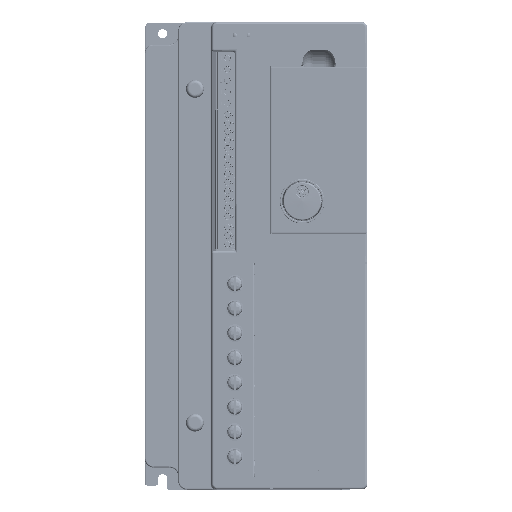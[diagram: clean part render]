
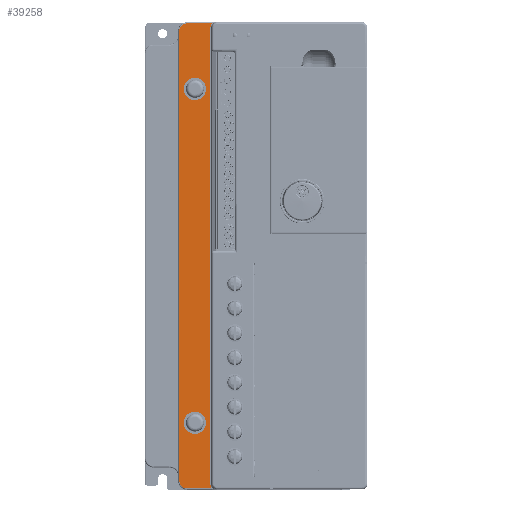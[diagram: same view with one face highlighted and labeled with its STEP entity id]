
A CAD part, top view. The second image highlights one B-rep face of the part: STEP entity #39258.
In plain terms, the highlighted planar face has unit normal (0, 0, 1).
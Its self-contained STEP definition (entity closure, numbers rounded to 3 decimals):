
#11539 = EDGE_CURVE ( 'NONE', #212891, #336443, #232441, .T. ) ;
#13058 = AXIS2_PLACEMENT_3D ( 'NONE', #509772, #161597, #568154 ) ;
#17272 = DIRECTION ( 'NONE',  ( -1., 0., 0. ) ) ;
#17624 = CIRCLE ( 'NONE', #168522, 1.65 ) ;
#18426 = DIRECTION ( 'NONE',  ( 0., 0., 1. ) ) ;
#26653 = CARTESIAN_POINT ( 'NONE',  ( -20., -104.5, 120. ) ) ;
#39258 = ADVANCED_FACE ( 'NONE', ( #138014, #601670, #583396 ), #522754, .F. ) ;
#64939 = ORIENTED_EDGE ( 'NONE', *, *, #299375, .T. ) ;
#67541 = CIRCLE ( 'NONE', #198521, 1.65 ) ;
#90742 = VECTOR ( 'NONE', #605852, 1000. ) ;
#91452 = DIRECTION ( 'NONE',  ( 0., 0., -1. ) ) ;
#91506 = VERTEX_POINT ( 'NONE', #325820 ) ;
#111638 = ORIENTED_EDGE ( 'NONE', *, *, #510538, .T. ) ;
#115043 = DIRECTION ( 'NONE',  ( 0., 0., 1. ) ) ;
#118712 = DIRECTION ( 'NONE',  ( 0., 0., -1. ) ) ;
#118752 = VECTOR ( 'NONE', #17272, 1000. ) ;
#130287 = CIRCLE ( 'NONE', #593472, 3.5 ) ;
#138014 = FACE_OUTER_BOUND ( 'NONE', #360193, .T. ) ;
#143133 = VERTEX_POINT ( 'NONE', #305971 ) ;
#149497 = CARTESIAN_POINT ( 'NONE',  ( -25.85, 75., 120. ) ) ;
#151301 = VERTEX_POINT ( 'NONE', #390619 ) ;
#154398 = ORIENTED_EDGE ( 'NONE', *, *, #586389, .T. ) ;
#160033 = EDGE_CURVE ( 'NONE', #392096, #143133, #67541, .T. ) ;
#161597 = DIRECTION ( 'NONE',  ( 0., 0., 1. ) ) ;
#161936 = EDGE_CURVE ( 'NONE', #294218, #621394, #130287, .T. ) ;
#164695 = ORIENTED_EDGE ( 'NONE', *, *, #11539, .T. ) ;
#168522 = AXIS2_PLACEMENT_3D ( 'NONE', #463163, #115043, #521570 ) ;
#180984 = DIRECTION ( 'NONE',  ( 0., 0., 1. ) ) ;
#196783 = AXIS2_PLACEMENT_3D ( 'NONE', #261757, #668230, #320127 ) ;
#198521 = AXIS2_PLACEMENT_3D ( 'NONE', #529068, #180984, #587482 ) ;
#212891 = VERTEX_POINT ( 'NONE', #289335 ) ;
#227857 = ORIENTED_EDGE ( 'NONE', *, *, #537965, .F. ) ;
#232441 = CIRCLE ( 'NONE', #416926, 3. ) ;
#233313 = CARTESIAN_POINT ( 'NONE',  ( -34.5, -101., 120. ) ) ;
#242790 = LINE ( 'NONE', #274747, #415577 ) ;
#245300 = LINE ( 'NONE', #26653, #90742 ) ;
#248765 = AXIS2_PLACEMENT_3D ( 'NONE', #439538, #91452, #498015 ) ;
#250637 = CARTESIAN_POINT ( 'NONE',  ( -31., -104.5, 120. ) ) ;
#261757 = CARTESIAN_POINT ( 'NONE',  ( -27.5, -75., 120. ) ) ;
#274747 = CARTESIAN_POINT ( 'NONE',  ( -34.5, 105., 120. ) ) ;
#275035 = EDGE_LOOP ( 'NONE', ( #227857, #285817 ) ) ;
#285817 = ORIENTED_EDGE ( 'NONE', *, *, #437764, .F. ) ;
#287247 = EDGE_CURVE ( 'NONE', #346538, #212891, #532798, .T. ) ;
#289335 = CARTESIAN_POINT ( 'NONE',  ( -20.5, 102.5, 120. ) ) ;
#294218 = VERTEX_POINT ( 'NONE', #233313 ) ;
#295225 = CARTESIAN_POINT ( 'NONE',  ( -17.5, 102.5, 120. ) ) ;
#295655 = DIRECTION ( 'NONE',  ( 0., 0., 1. ) ) ;
#299375 = EDGE_CURVE ( 'NONE', #151301, #346538, #451869, .T. ) ;
#305583 = AXIS2_PLACEMENT_3D ( 'NONE', #643681, #295655, #702164 ) ;
#305971 = CARTESIAN_POINT ( 'NONE',  ( -29.15, 75., 120. ) ) ;
#315361 = EDGE_CURVE ( 'NONE', #143133, #392096, #17624, .T. ) ;
#315858 = ORIENTED_EDGE ( 'NONE', *, *, #160033, .F. ) ;
#320127 = DIRECTION ( 'NONE',  ( 1., 0., 0. ) ) ;
#325820 = CARTESIAN_POINT ( 'NONE',  ( -31., 104.5, 120. ) ) ;
#336443 = VERTEX_POINT ( 'NONE', #348491 ) ;
#346538 = VERTEX_POINT ( 'NONE', #727089 ) ;
#348491 = CARTESIAN_POINT ( 'NONE',  ( -19.736, 104.5, 120. ) ) ;
#353627 = DIRECTION ( 'NONE',  ( -1., 0., 0. ) ) ;
#356947 = EDGE_CURVE ( 'NONE', #336443, #91506, #546059, .T. ) ;
#358167 = ORIENTED_EDGE ( 'NONE', *, *, #315361, .F. ) ;
#358586 = CARTESIAN_POINT ( 'NONE',  ( -29.15, -75., 120. ) ) ;
#360193 = EDGE_LOOP ( 'NONE', ( #64939, #550188, #164695, #637789, #154398, #472230, #555224, #111638 ) ) ;
#362849 = CARTESIAN_POINT ( 'NONE',  ( -20., 104.5, 120. ) ) ;
#366544 = CARTESIAN_POINT ( 'NONE',  ( -31., -101., 120. ) ) ;
#370076 = VERTEX_POINT ( 'NONE', #669473 ) ;
#378439 = VECTOR ( 'NONE', #575936, 1000. ) ;
#390619 = CARTESIAN_POINT ( 'NONE',  ( -19.736, -104.5, 120. ) ) ;
#392096 = VERTEX_POINT ( 'NONE', #149497 ) ;
#415577 = VECTOR ( 'NONE', #444988, 1000. ) ;
#416926 = AXIS2_PLACEMENT_3D ( 'NONE', #295225, #701740, #353627 ) ;
#424993 = DIRECTION ( 'NONE',  ( -1., 0., 0. ) ) ;
#437764 = EDGE_CURVE ( 'NONE', #577516, #457416, #519183, .T. ) ;
#439538 = CARTESIAN_POINT ( 'NONE',  ( -17.5, -102.5, 120. ) ) ;
#444988 = DIRECTION ( 'NONE',  ( 0., -1., 0. ) ) ;
#451869 = CIRCLE ( 'NONE', #248765, 3. ) ;
#456837 = EDGE_CURVE ( 'NONE', #370076, #294218, #242790, .T. ) ;
#457416 = VERTEX_POINT ( 'NONE', #732491 ) ;
#463163 = CARTESIAN_POINT ( 'NONE',  ( -27.5, 75., 120. ) ) ;
#472230 = ORIENTED_EDGE ( 'NONE', *, *, #456837, .T. ) ;
#472615 = EDGE_LOOP ( 'NONE', ( #315858, #358167 ) ) ;
#498015 = DIRECTION ( 'NONE',  ( -1., 0., 0. ) ) ;
#509772 = CARTESIAN_POINT ( 'NONE',  ( -31., 101., 120. ) ) ;
#510538 = EDGE_CURVE ( 'NONE', #621394, #151301, #245300, .T. ) ;
#519183 = CIRCLE ( 'NONE', #196783, 1.65 ) ;
#521570 = DIRECTION ( 'NONE',  ( 1., 0., 0. ) ) ;
#522754 = PLANE ( 'NONE',  #726527 ) ;
#525243 = DIRECTION ( 'NONE',  ( -1., 0., 0. ) ) ;
#529068 = CARTESIAN_POINT ( 'NONE',  ( -27.5, 75., 120. ) ) ;
#532798 = LINE ( 'NONE', #636856, #378439 ) ;
#537965 = EDGE_CURVE ( 'NONE', #457416, #577516, #652157, .T. ) ;
#546059 = LINE ( 'NONE', #362849, #118752 ) ;
#550188 = ORIENTED_EDGE ( 'NONE', *, *, #287247, .T. ) ;
#555224 = ORIENTED_EDGE ( 'NONE', *, *, #161936, .T. ) ;
#568154 = DIRECTION ( 'NONE',  ( -1., 0., 0. ) ) ;
#575936 = DIRECTION ( 'NONE',  ( 0., 1., 0. ) ) ;
#577516 = VERTEX_POINT ( 'NONE', #358586 ) ;
#583396 = FACE_BOUND ( 'NONE', #275035, .T. ) ;
#586389 = EDGE_CURVE ( 'NONE', #91506, #370076, #724232, .T. ) ;
#587482 = DIRECTION ( 'NONE',  ( 1., 0., 0. ) ) ;
#593472 = AXIS2_PLACEMENT_3D ( 'NONE', #366544, #18426, #424993 ) ;
#601670 = FACE_BOUND ( 'NONE', #472615, .T. ) ;
#605852 = DIRECTION ( 'NONE',  ( 1., 0., 0. ) ) ;
#621394 = VERTEX_POINT ( 'NONE', #250637 ) ;
#636856 = CARTESIAN_POINT ( 'NONE',  ( -20.5, 102.5, 120. ) ) ;
#637789 = ORIENTED_EDGE ( 'NONE', *, *, #356947, .T. ) ;
#643681 = CARTESIAN_POINT ( 'NONE',  ( -27.5, -75., 120. ) ) ;
#652157 = CIRCLE ( 'NONE', #305583, 1.65 ) ;
#668230 = DIRECTION ( 'NONE',  ( 0., 0., 1. ) ) ;
#669473 = CARTESIAN_POINT ( 'NONE',  ( -34.5, 101., 120. ) ) ;
#701740 = DIRECTION ( 'NONE',  ( 0., 0., -1. ) ) ;
#702164 = DIRECTION ( 'NONE',  ( 1., 0., 0. ) ) ;
#724232 = CIRCLE ( 'NONE', #13058, 3.5 ) ;
#726527 = AXIS2_PLACEMENT_3D ( 'NONE', #754103, #118712, #525243 ) ;
#727089 = CARTESIAN_POINT ( 'NONE',  ( -20.5, -102.5, 120. ) ) ;
#732491 = CARTESIAN_POINT ( 'NONE',  ( -25.85, -75., 120. ) ) ;
#754103 = CARTESIAN_POINT ( 'NONE',  ( -20., 105., 120. ) ) ;
